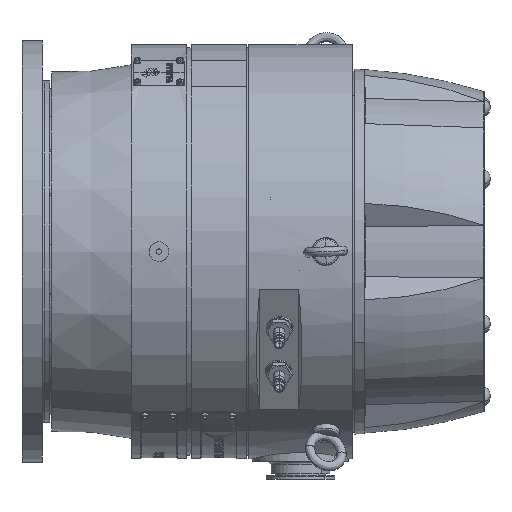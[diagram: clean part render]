
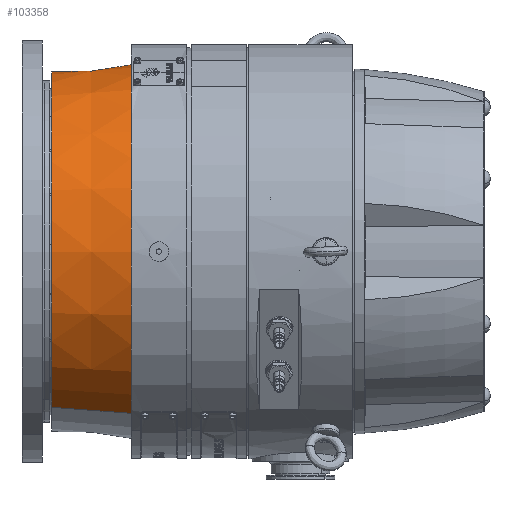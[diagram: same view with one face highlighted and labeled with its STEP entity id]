
A CAD part, left-side view. The second image highlights one B-rep face of the part: STEP entity #103358.
In plain terms, the highlighted conical face has half-angle 5 degrees and reference radius 142.862 mm.
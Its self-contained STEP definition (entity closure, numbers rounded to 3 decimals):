
#837 = VECTOR ( 'NONE', #79066, 1000. ) ;
#1689 = DIRECTION ( 'NONE',  ( -0.5, 0., -0.866 ) ) ;
#4531 = AXIS2_PLACEMENT_3D ( 'NONE', #148699, #84477, #109454 ) ;
#6864 = EDGE_CURVE ( 'NONE', #54901, #21612, #25555, .T. ) ;
#10801 = AXIS2_PLACEMENT_3D ( 'NONE', #40994, #77577, #1689 ) ;
#21612 = VERTEX_POINT ( 'NONE', #108118 ) ;
#23747 = EDGE_CURVE ( 'NONE', #21612, #105830, #135692, .T. ) ;
#25555 = CIRCLE ( 'NONE', #63656, 142.862 ) ;
#28513 = FACE_OUTER_BOUND ( 'NONE', #127760, .T. ) ;
#36614 = ORIENTED_EDGE ( 'NONE', *, *, #23747, .T. ) ;
#37742 = VECTOR ( 'NONE', #130802, 1000. ) ;
#38362 = CARTESIAN_POINT ( 'NONE',  ( 71.431, 242.8, 123.722 ) ) ;
#40994 = CARTESIAN_POINT ( 'NONE',  ( 0., 179.5, 0. ) ) ;
#41574 = CARTESIAN_POINT ( 'NONE',  ( -74.2, 179.5, -128.518 ) ) ;
#44273 = EDGE_CURVE ( 'NONE', #54901, #119108, #71459, .T. ) ;
#54901 = VERTEX_POINT ( 'NONE', #60608 ) ;
#60608 = CARTESIAN_POINT ( 'NONE',  ( 71.431, 242.8, 123.722 ) ) ;
#63656 = AXIS2_PLACEMENT_3D ( 'NONE', #124410, #136603, #111105 ) ;
#66360 = CARTESIAN_POINT ( 'NONE',  ( -71.431, 242.8, -123.722 ) ) ;
#69469 = CIRCLE ( 'NONE', #10801, 148.4 ) ;
#71459 = LINE ( 'NONE', #38362, #37742 ) ;
#76331 = EDGE_CURVE ( 'NONE', #119108, #105830, #69469, .T. ) ;
#77577 = DIRECTION ( 'NONE',  ( 0., -1., 0. ) ) ;
#79066 = DIRECTION ( 'NONE',  ( -0.044, -0.996, -0.075 ) ) ;
#84477 = DIRECTION ( 'NONE',  ( 0., -1., 0. ) ) ;
#103358 = ADVANCED_FACE ( 'NONE', ( #28513 ), #105806, .T. ) ;
#105806 = CONICAL_SURFACE ( 'NONE', #4531, 142.862, 0.087 ) ;
#105830 = VERTEX_POINT ( 'NONE', #41574 ) ;
#108118 = CARTESIAN_POINT ( 'NONE',  ( -71.431, 242.8, -123.722 ) ) ;
#109454 = DIRECTION ( 'NONE',  ( -0.5, 0., -0.866 ) ) ;
#111105 = DIRECTION ( 'NONE',  ( -0.5, 0., -0.866 ) ) ;
#114705 = CARTESIAN_POINT ( 'NONE',  ( 74.2, 179.5, 128.518 ) ) ;
#117647 = ORIENTED_EDGE ( 'NONE', *, *, #44273, .F. ) ;
#119108 = VERTEX_POINT ( 'NONE', #114705 ) ;
#124410 = CARTESIAN_POINT ( 'NONE',  ( 0., 242.8, 0. ) ) ;
#127760 = EDGE_LOOP ( 'NONE', ( #117647, #133450, #36614, #133149 ) ) ;
#130802 = DIRECTION ( 'NONE',  ( 0.044, -0.996, 0.075 ) ) ;
#133149 = ORIENTED_EDGE ( 'NONE', *, *, #76331, .F. ) ;
#133450 = ORIENTED_EDGE ( 'NONE', *, *, #6864, .T. ) ;
#135692 = LINE ( 'NONE', #66360, #837 ) ;
#136603 = DIRECTION ( 'NONE',  ( 0., -1., 0. ) ) ;
#148699 = CARTESIAN_POINT ( 'NONE',  ( 0., 242.8, 0. ) ) ;
